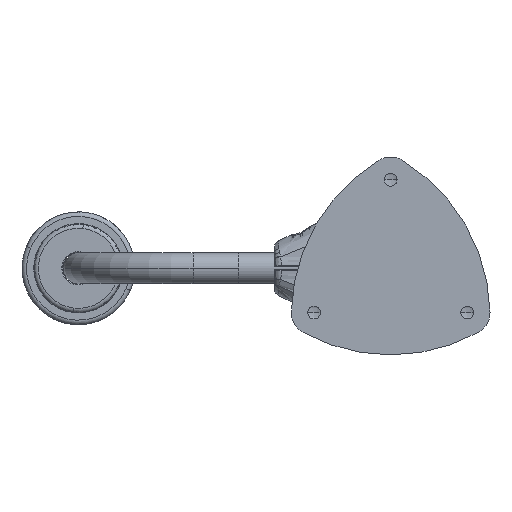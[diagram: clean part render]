
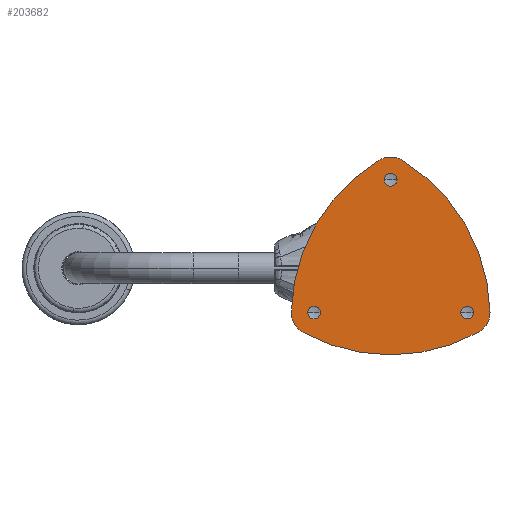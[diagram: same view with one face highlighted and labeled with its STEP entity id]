
A CAD part, front view. The second image highlights one B-rep face of the part: STEP entity #203682.
In plain terms, the highlighted planar face has unit normal (0, -1, 0).
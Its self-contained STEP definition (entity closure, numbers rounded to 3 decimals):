
#6974 = PLANE ( 'NONE',  #58661 ) ;
#8507 = AXIS2_PLACEMENT_3D ( 'NONE', #503292, #63458, #238910 ) ;
#10110 = ORIENTED_EDGE ( 'NONE', *, *, #57617, .F. ) ;
#11706 = ORIENTED_EDGE ( 'NONE', *, *, #60084, .F. ) ;
#12634 = FACE_BOUND ( 'NONE', #314787, .T. ) ;
#15905 = DIRECTION ( 'NONE',  ( 0., 0., -1. ) ) ;
#15969 = VERTEX_POINT ( 'NONE', #449058 ) ;
#21052 = CARTESIAN_POINT ( 'NONE',  ( 84.134, 0., -48.575 ) ) ;
#28292 = CARTESIAN_POINT ( 'NONE',  ( 0., 0., 122.15 ) ) ;
#32886 = ORIENTED_EDGE ( 'NONE', *, *, #390583, .T. ) ;
#35986 = CIRCLE ( 'NONE', #8507, 25. ) ;
#41188 = CARTESIAN_POINT ( 'NONE',  ( -109.128, 0., -48.023 ) ) ;
#42968 = DIRECTION ( 'NONE',  ( 0., 1., 0. ) ) ;
#43401 = AXIS2_PLACEMENT_3D ( 'NONE', #335874, #465211, #200829 ) ;
#52895 = DIRECTION ( 'NONE',  ( 0., 1., 0. ) ) ;
#54930 = ORIENTED_EDGE ( 'NONE', *, *, #451220, .T. ) ;
#55722 = FACE_BOUND ( 'NONE', #432855, .T. ) ;
#57617 = EDGE_CURVE ( 'NONE', #89941, #15969, #558809, .T. ) ;
#58661 = AXIS2_PLACEMENT_3D ( 'NONE', #406458, #52895, #222720 ) ;
#60084 = EDGE_CURVE ( 'NONE', #15969, #389804, #35986, .T. ) ;
#63458 = DIRECTION ( 'NONE',  ( 0., 1., 0. ) ) ;
#74510 = VERTEX_POINT ( 'NONE', #450558 ) ;
#74821 = CARTESIAN_POINT ( 'NONE',  ( -84.134, 0., -48.575 ) ) ;
#83587 = CIRCLE ( 'NONE', #450803, 7. ) ;
#89941 = VERTEX_POINT ( 'NONE', #41188 ) ;
#105349 = CARTESIAN_POINT ( 'NONE',  ( 84.134, 0., -48.575 ) ) ;
#116899 = AXIS2_PLACEMENT_3D ( 'NONE', #448882, #282109, #149839 ) ;
#124288 = ORIENTED_EDGE ( 'NONE', *, *, #523979, .T. ) ;
#128116 = CARTESIAN_POINT ( 'NONE',  ( 90.823, 0., -52.437 ) ) ;
#130284 = ORIENTED_EDGE ( 'NONE', *, *, #240783, .F. ) ;
#133988 = EDGE_CURVE ( 'NONE', #74510, #399999, #83587, .T. ) ;
#136397 = FACE_BOUND ( 'NONE', #179513, .T. ) ;
#145835 = CIRCLE ( 'NONE', #467084, 7. ) ;
#146842 = DIRECTION ( 'NONE',  ( 0., 0., -1. ) ) ;
#149839 = DIRECTION ( 'NONE',  ( 0., 0., -1. ) ) ;
#157377 = DIRECTION ( 'NONE',  ( 0., 1., 0. ) ) ;
#160928 = VERTEX_POINT ( 'NONE', #518853 ) ;
#179513 = EDGE_LOOP ( 'NONE', ( #511185, #124288 ) ) ;
#182415 = AXIS2_PLACEMENT_3D ( 'NONE', #74821, #42968, #525921 ) ;
#193615 = DIRECTION ( 'NONE',  ( 0., 1., 0. ) ) ;
#195866 = CARTESIAN_POINT ( 'NONE',  ( 0., 0., 90.15 ) ) ;
#196450 = DIRECTION ( 'NONE',  ( 0., 0., -1. ) ) ;
#199660 = CIRCLE ( 'NONE', #502447, 200. ) ;
#200829 = DIRECTION ( 'NONE',  ( 0., 0., -1. ) ) ;
#200835 = CIRCLE ( 'NONE', #457681, 7. ) ;
#203682 = ADVANCED_FACE ( 'NONE', ( #366207, #55722, #12634, #136397 ), #6974, .F. ) ;
#205208 = CIRCLE ( 'NONE', #471538, 7. ) ;
#206495 = AXIS2_PLACEMENT_3D ( 'NONE', #21052, #193615, #196450 ) ;
#208146 = DIRECTION ( 'NONE',  ( 0., 1., 0. ) ) ;
#222720 = DIRECTION ( 'NONE',  ( 0., 0., -1. ) ) ;
#222880 = VERTEX_POINT ( 'NONE', #496113 ) ;
#228560 = DIRECTION ( 'NONE',  ( 0., 1., 0. ) ) ;
#229076 = EDGE_CURVE ( 'NONE', #432279, #540451, #205208, .T. ) ;
#229165 = DIRECTION ( 'NONE',  ( 0., 1., 0. ) ) ;
#238910 = DIRECTION ( 'NONE',  ( 0., 0., -1. ) ) ;
#240783 = EDGE_CURVE ( 'NONE', #273203, #557368, #500230, .T. ) ;
#244424 = CARTESIAN_POINT ( 'NONE',  ( 0., 0., 104.873 ) ) ;
#248436 = DIRECTION ( 'NONE',  ( 0., 0., -1. ) ) ;
#250650 = CARTESIAN_POINT ( 'NONE',  ( 12.975, 0., 118.52 ) ) ;
#251279 = CARTESIAN_POINT ( 'NONE',  ( -90.823, 0., -52.437 ) ) ;
#273203 = VERTEX_POINT ( 'NONE', #383513 ) ;
#282109 = DIRECTION ( 'NONE',  ( 0., 1., 0. ) ) ;
#285835 = VERTEX_POINT ( 'NONE', #250650 ) ;
#303997 = DIRECTION ( 'NONE',  ( 0., 0., -1. ) ) ;
#311258 = CIRCLE ( 'NONE', #182415, 25. ) ;
#314787 = EDGE_LOOP ( 'NONE', ( #54930, #344132 ) ) ;
#316854 = VERTEX_POINT ( 'NONE', #195866 ) ;
#335874 = CARTESIAN_POINT ( 'NONE',  ( 0., 0., 97.15 ) ) ;
#344132 = ORIENTED_EDGE ( 'NONE', *, *, #229076, .T. ) ;
#344789 = EDGE_LOOP ( 'NONE', ( #451886, #430573, #11706, #10110, #414772, #384934, #130284 ) ) ;
#357169 = AXIS2_PLACEMENT_3D ( 'NONE', #244424, #540645, #146842 ) ;
#364535 = DIRECTION ( 'NONE',  ( 0., 0., -1. ) ) ;
#366207 = FACE_OUTER_BOUND ( 'NONE', #344789, .T. ) ;
#368497 = DIRECTION ( 'NONE',  ( 0., 1., 0. ) ) ;
#383513 = CARTESIAN_POINT ( 'NONE',  ( 109.128, 0., -48.023 ) ) ;
#384934 = ORIENTED_EDGE ( 'NONE', *, *, #544839, .F. ) ;
#385336 = EDGE_CURVE ( 'NONE', #389804, #285835, #539587, .T. ) ;
#389804 = VERTEX_POINT ( 'NONE', #28292 ) ;
#390583 = EDGE_CURVE ( 'NONE', #316854, #222880, #539156, .T. ) ;
#399999 = VERTEX_POINT ( 'NONE', #509142 ) ;
#401505 = CARTESIAN_POINT ( 'NONE',  ( 0., 0., 97.15 ) ) ;
#406458 = CARTESIAN_POINT ( 'NONE',  ( -3.344, 0., -50.506 ) ) ;
#407872 = EDGE_CURVE ( 'NONE', #285835, #273203, #199660, .T. ) ;
#414419 = CARTESIAN_POINT ( 'NONE',  ( 84.134, 0., -48.575 ) ) ;
#414772 = ORIENTED_EDGE ( 'NONE', *, *, #466156, .F. ) ;
#415394 = CARTESIAN_POINT ( 'NONE',  ( -84.134, 0., -48.575 ) ) ;
#421180 = CIRCLE ( 'NONE', #531602, 7. ) ;
#430573 = ORIENTED_EDGE ( 'NONE', *, *, #385336, .F. ) ;
#432279 = VERTEX_POINT ( 'NONE', #436166 ) ;
#432855 = EDGE_LOOP ( 'NONE', ( #470166, #32886 ) ) ;
#436152 = DIRECTION ( 'NONE',  ( 0., 1., 0. ) ) ;
#436166 = CARTESIAN_POINT ( 'NONE',  ( -84.134, 0., -55.575 ) ) ;
#438468 = DIRECTION ( 'NONE',  ( 0., 0., 1. ) ) ;
#439374 = AXIS2_PLACEMENT_3D ( 'NONE', #128116, #228560, #438468 ) ;
#448882 = CARTESIAN_POINT ( 'NONE',  ( 0., 0., 97.15 ) ) ;
#449058 = CARTESIAN_POINT ( 'NONE',  ( -12.975, 0., 118.52 ) ) ;
#450558 = CARTESIAN_POINT ( 'NONE',  ( 84.134, 0., -41.575 ) ) ;
#450803 = AXIS2_PLACEMENT_3D ( 'NONE', #414419, #368497, #454716 ) ;
#451220 = EDGE_CURVE ( 'NONE', #540451, #432279, #421180, .T. ) ;
#451886 = ORIENTED_EDGE ( 'NONE', *, *, #407872, .F. ) ;
#454716 = DIRECTION ( 'NONE',  ( 0., 0., -1. ) ) ;
#457681 = AXIS2_PLACEMENT_3D ( 'NONE', #401505, #436152, #303997 ) ;
#465211 = DIRECTION ( 'NONE',  ( 0., 1., 0. ) ) ;
#466156 = EDGE_CURVE ( 'NONE', #160928, #89941, #311258, .T. ) ;
#467084 = AXIS2_PLACEMENT_3D ( 'NONE', #105349, #229165, #536663 ) ;
#467517 = CIRCLE ( 'NONE', #357169, 200. ) ;
#470166 = ORIENTED_EDGE ( 'NONE', *, *, #514186, .T. ) ;
#471538 = AXIS2_PLACEMENT_3D ( 'NONE', #542697, #157377, #364535 ) ;
#496113 = CARTESIAN_POINT ( 'NONE',  ( 0., 0., 104.15 ) ) ;
#500230 = CIRCLE ( 'NONE', #206495, 25. ) ;
#502447 = AXIS2_PLACEMENT_3D ( 'NONE', #251279, #208146, #248436 ) ;
#503292 = CARTESIAN_POINT ( 'NONE',  ( 0., 0., 97.15 ) ) ;
#505046 = CARTESIAN_POINT ( 'NONE',  ( 96.154, 0., -70.496 ) ) ;
#507757 = CARTESIAN_POINT ( 'NONE',  ( -84.134, 0., -41.575 ) ) ;
#509142 = CARTESIAN_POINT ( 'NONE',  ( 84.134, 0., -55.575 ) ) ;
#511185 = ORIENTED_EDGE ( 'NONE', *, *, #133988, .T. ) ;
#514186 = EDGE_CURVE ( 'NONE', #222880, #316854, #200835, .T. ) ;
#518853 = CARTESIAN_POINT ( 'NONE',  ( -96.154, 0., -70.496 ) ) ;
#523979 = EDGE_CURVE ( 'NONE', #399999, #74510, #145835, .T. ) ;
#525921 = DIRECTION ( 'NONE',  ( 0., 0., 1. ) ) ;
#531602 = AXIS2_PLACEMENT_3D ( 'NONE', #415394, #544779, #15905 ) ;
#536663 = DIRECTION ( 'NONE',  ( 0., 0., -1. ) ) ;
#539156 = CIRCLE ( 'NONE', #116899, 7. ) ;
#539587 = CIRCLE ( 'NONE', #43401, 25. ) ;
#540451 = VERTEX_POINT ( 'NONE', #507757 ) ;
#540645 = DIRECTION ( 'NONE',  ( 0., 1., 0. ) ) ;
#542697 = CARTESIAN_POINT ( 'NONE',  ( -84.134, 0., -48.575 ) ) ;
#544779 = DIRECTION ( 'NONE',  ( 0., 1., 0. ) ) ;
#544839 = EDGE_CURVE ( 'NONE', #557368, #160928, #467517, .T. ) ;
#557368 = VERTEX_POINT ( 'NONE', #505046 ) ;
#558809 = CIRCLE ( 'NONE', #439374, 200. ) ;
